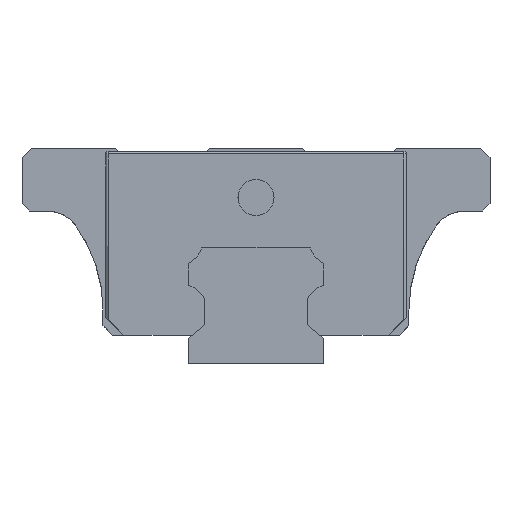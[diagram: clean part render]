
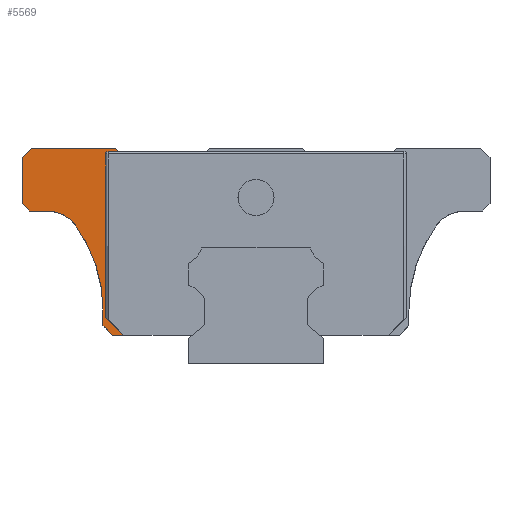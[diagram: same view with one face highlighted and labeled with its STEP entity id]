
A CAD part, left-side view. The second image highlights one B-rep face of the part: STEP entity #5569.
In plain terms, the highlighted planar face has unit normal (-1, 0, 0).
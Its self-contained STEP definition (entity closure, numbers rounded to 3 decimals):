
#181 = ORIENTED_EDGE ( 'NONE', *, *, #3334, .T. ) ;
#233 = FACE_OUTER_BOUND ( 'NONE', #4317, .T. ) ;
#259 = VECTOR ( 'NONE', #3158, 1000. ) ;
#284 = VECTOR ( 'NONE', #7400, 1000. ) ;
#287 = DIRECTION ( 'NONE',  ( 0., 0., -1. ) ) ;
#380 = CARTESIAN_POINT ( 'NONE',  ( -19.75, 25.2, 17. ) ) ;
#421 = LINE ( 'NONE', #5487, #284 ) ;
#498 = CARTESIAN_POINT ( 'NONE',  ( -19.75, 23.253, 13. ) ) ;
#505 = LINE ( 'NONE', #3021, #1417 ) ;
#580 = ORIENTED_EDGE ( 'NONE', *, *, #3679, .T. ) ;
#595 = EDGE_CURVE ( 'NONE', #2979, #5877, #1846, .T. ) ;
#886 = VECTOR ( 'NONE', #3931, 1000. ) ;
#1009 = DIRECTION ( 'NONE',  ( 0., 0., 1. ) ) ;
#1081 = CARTESIAN_POINT ( 'NONE',  ( -19.75, 24.95, 24. ) ) ;
#1151 = DIRECTION ( 'NONE',  ( 0., -0.707, -0.707 ) ) ;
#1417 = VECTOR ( 'NONE', #6017, 1000. ) ;
#1419 = EDGE_CURVE ( 'NONE', #7825, #3331, #5192, .T. ) ;
#1432 = VERTEX_POINT ( 'NONE', #4611 ) ;
#1472 = LINE ( 'NONE', #5215, #3982 ) ;
#1556 = EDGE_CURVE ( 'NONE', #5900, #7282, #6617, .T. ) ;
#1567 = CARTESIAN_POINT ( 'NONE',  ( -19.75, 23.253, 17. ) ) ;
#1582 = ORIENTED_EDGE ( 'NONE', *, *, #2155, .T. ) ;
#1630 = CARTESIAN_POINT ( 'NONE',  ( -19.75, 16.442, 23.335 ) ) ;
#1705 = DIRECTION ( 'NONE',  ( 0., 0., 1. ) ) ;
#1767 = CARTESIAN_POINT ( 'NONE',  ( -19.75, 15.6, 24. ) ) ;
#1792 = ORIENTED_EDGE ( 'NONE', *, *, #4921, .F. ) ;
#1846 = LINE ( 'NONE', #3050, #3733 ) ;
#2155 = EDGE_CURVE ( 'NONE', #5421, #3278, #7038, .T. ) ;
#2411 = AXIS2_PLACEMENT_3D ( 'NONE', #5253, #6708, #1705 ) ;
#2550 = CARTESIAN_POINT ( 'NONE',  ( -19.75, 26., 17.8 ) ) ;
#2580 = CARTESIAN_POINT ( 'NONE',  ( -19.75, 17., 4.25 ) ) ;
#2656 = ORIENTED_EDGE ( 'NONE', *, *, #1556, .T. ) ;
#2848 = CARTESIAN_POINT ( 'NONE',  ( -19.75, 26., 24. ) ) ;
#2860 = VERTEX_POINT ( 'NONE', #7206 ) ;
#2910 = EDGE_CURVE ( 'NONE', #7825, #1432, #5873, .T. ) ;
#2979 = VERTEX_POINT ( 'NONE', #5498 ) ;
#3021 = CARTESIAN_POINT ( 'NONE',  ( -19.75, 17., 4.25 ) ) ;
#3050 = CARTESIAN_POINT ( 'NONE',  ( -19.75, 15.233, 23.563 ) ) ;
#3157 = ORIENTED_EDGE ( 'NONE', *, *, #5432, .T. ) ;
#3158 = DIRECTION ( 'NONE',  ( 0., 1., 0. ) ) ;
#3170 = DIRECTION ( 'NONE',  ( 0., -1., 0. ) ) ;
#3215 = VERTEX_POINT ( 'NONE', #2580 ) ;
#3271 = LINE ( 'NONE', #5813, #7652 ) ;
#3278 = VERTEX_POINT ( 'NONE', #7154 ) ;
#3331 = VERTEX_POINT ( 'NONE', #3394 ) ;
#3334 = EDGE_CURVE ( 'NONE', #3215, #6223, #505, .T. ) ;
#3345 = LINE ( 'NONE', #2848, #5292 ) ;
#3394 = CARTESIAN_POINT ( 'NONE',  ( -19.75, 16.702, 5.2 ) ) ;
#3409 = DIRECTION ( 'NONE',  ( 0., 0., -1. ) ) ;
#3483 = VECTOR ( 'NONE', #7751, 1000. ) ;
#3500 = CARTESIAN_POINT ( 'NONE',  ( -19.75, 15.6, 24. ) ) ;
#3570 = ORIENTED_EDGE ( 'NONE', *, *, #4361, .T. ) ;
#3652 = CARTESIAN_POINT ( 'NONE',  ( -19.75, 16.702, 23.335 ) ) ;
#3679 = EDGE_CURVE ( 'NONE', #5877, #5630, #7915, .T. ) ;
#3733 = VECTOR ( 'NONE', #3752, 1000. ) ;
#3752 = DIRECTION ( 'NONE',  ( 0., 0.643, 0.766 ) ) ;
#3834 = CARTESIAN_POINT ( 'NONE',  ( -19.75, 17.674, 3.2 ) ) ;
#3931 = DIRECTION ( 'NONE',  ( 0., -0.707, -0.707 ) ) ;
#3982 = VECTOR ( 'NONE', #3409, 1000. ) ;
#4036 = ORIENTED_EDGE ( 'NONE', *, *, #6686, .T. ) ;
#4267 = CARTESIAN_POINT ( 'NONE',  ( -19.75, 14.702, 3.2 ) ) ;
#4277 = CARTESIAN_POINT ( 'NONE',  ( -19.75, 16.702, 5.2 ) ) ;
#4317 = EDGE_LOOP ( 'NONE', ( #4036, #7340, #1582, #3570, #2656, #6406, #3157, #181, #6925, #1792, #4614, #6942, #5620, #4704, #580 ) ) ;
#4335 = CARTESIAN_POINT ( 'NONE',  ( -19.75, 33., 6. ) ) ;
#4361 = EDGE_CURVE ( 'NONE', #3278, #5900, #6019, .T. ) ;
#4423 = EDGE_CURVE ( 'NONE', #2979, #1432, #421, .T. ) ;
#4446 = LINE ( 'NONE', #3834, #4752 ) ;
#4611 = CARTESIAN_POINT ( 'NONE',  ( -19.75, 16.442, 23.595 ) ) ;
#4614 = ORIENTED_EDGE ( 'NONE', *, *, #1419, .F. ) ;
#4621 = VECTOR ( 'NONE', #7158, 1000. ) ;
#4668 = EDGE_CURVE ( 'NONE', #2860, #5421, #3345, .T. ) ;
#4704 = ORIENTED_EDGE ( 'NONE', *, *, #595, .T. ) ;
#4752 = VECTOR ( 'NONE', #3170, 1000. ) ;
#4899 = LINE ( 'NONE', #4277, #7242 ) ;
#4921 = EDGE_CURVE ( 'NONE', #3331, #5237, #4899, .T. ) ;
#4935 = AXIS2_PLACEMENT_3D ( 'NONE', #498, #6619, #6780 ) ;
#5033 = EDGE_CURVE ( 'NONE', #6223, #5237, #4446, .T. ) ;
#5192 = LINE ( 'NONE', #6419, #3483 ) ;
#5215 = CARTESIAN_POINT ( 'NONE',  ( -19.75, 17., 6. ) ) ;
#5237 = VERTEX_POINT ( 'NONE', #4267 ) ;
#5253 = CARTESIAN_POINT ( 'NONE',  ( -19.75, -6.587, 3.2 ) ) ;
#5292 = VECTOR ( 'NONE', #287, 1000. ) ;
#5421 = VERTEX_POINT ( 'NONE', #2550 ) ;
#5432 = EDGE_CURVE ( 'NONE', #6910, #3215, #1472, .T. ) ;
#5454 = AXIS2_PLACEMENT_3D ( 'NONE', #4335, #6793, #7934 ) ;
#5487 = CARTESIAN_POINT ( 'NONE',  ( -19.75, -18.027, 23.595 ) ) ;
#5498 = CARTESIAN_POINT ( 'NONE',  ( -19.75, 15.26, 23.595 ) ) ;
#5569 = ADVANCED_FACE ( 'NONE', ( #233 ), #7091, .T. ) ;
#5577 = CARTESIAN_POINT ( 'NONE',  ( -19.75, 15.95, 3.2 ) ) ;
#5620 = ORIENTED_EDGE ( 'NONE', *, *, #4423, .F. ) ;
#5630 = VERTEX_POINT ( 'NONE', #1081 ) ;
#5744 = AXIS2_PLACEMENT_3D ( 'NONE', #1630, #6636, #1009 ) ;
#5813 = CARTESIAN_POINT ( 'NONE',  ( -19.75, 24.95, 24. ) ) ;
#5873 = CIRCLE ( 'NONE', #5744, 0.26 ) ;
#5877 = VERTEX_POINT ( 'NONE', #3500 ) ;
#5900 = VERTEX_POINT ( 'NONE', #1567 ) ;
#6017 = DIRECTION ( 'NONE',  ( 0., -0.707, -0.707 ) ) ;
#6019 = LINE ( 'NONE', #380, #4621 ) ;
#6223 = VERTEX_POINT ( 'NONE', #5577 ) ;
#6406 = ORIENTED_EDGE ( 'NONE', *, *, #7847, .T. ) ;
#6419 = CARTESIAN_POINT ( 'NONE',  ( -19.75, 16.702, 23.125 ) ) ;
#6458 = CARTESIAN_POINT ( 'NONE',  ( -19.75, 17., 6. ) ) ;
#6535 = CARTESIAN_POINT ( 'NONE',  ( -19.75, 20.004, 15.333 ) ) ;
#6617 = CIRCLE ( 'NONE', #4935, 4. ) ;
#6619 = DIRECTION ( 'NONE',  ( 1., 0., 0. ) ) ;
#6636 = DIRECTION ( 'NONE',  ( 1., 0., 0. ) ) ;
#6686 = EDGE_CURVE ( 'NONE', #5630, #2860, #3271, .T. ) ;
#6708 = DIRECTION ( 'NONE',  ( -1., 0., 0. ) ) ;
#6780 = DIRECTION ( 'NONE',  ( 0., 0., 1. ) ) ;
#6793 = DIRECTION ( 'NONE',  ( 1., 0., 0. ) ) ;
#6910 = VERTEX_POINT ( 'NONE', #6458 ) ;
#6925 = ORIENTED_EDGE ( 'NONE', *, *, #5033, .T. ) ;
#6942 = ORIENTED_EDGE ( 'NONE', *, *, #2910, .T. ) ;
#6955 = DIRECTION ( 'NONE',  ( 0., 0.707, -0.707 ) ) ;
#7038 = LINE ( 'NONE', #7913, #886 ) ;
#7091 = PLANE ( 'NONE',  #2411 ) ;
#7154 = CARTESIAN_POINT ( 'NONE',  ( -19.75, 25.2, 17. ) ) ;
#7158 = DIRECTION ( 'NONE',  ( 0., -1., 0. ) ) ;
#7206 = CARTESIAN_POINT ( 'NONE',  ( -19.75, 26., 22.95 ) ) ;
#7242 = VECTOR ( 'NONE', #1151, 1000. ) ;
#7282 = VERTEX_POINT ( 'NONE', #6535 ) ;
#7288 = CIRCLE ( 'NONE', #5454, 16. ) ;
#7340 = ORIENTED_EDGE ( 'NONE', *, *, #4668, .T. ) ;
#7400 = DIRECTION ( 'NONE',  ( 0., 1., 0. ) ) ;
#7652 = VECTOR ( 'NONE', #6955, 1000. ) ;
#7751 = DIRECTION ( 'NONE',  ( 0., 0., -1. ) ) ;
#7825 = VERTEX_POINT ( 'NONE', #3652 ) ;
#7847 = EDGE_CURVE ( 'NONE', #7282, #6910, #7288, .T. ) ;
#7913 = CARTESIAN_POINT ( 'NONE',  ( -19.75, 26., 17.8 ) ) ;
#7915 = LINE ( 'NONE', #1767, #259 ) ;
#7934 = DIRECTION ( 'NONE',  ( 0., 0., 1. ) ) ;
